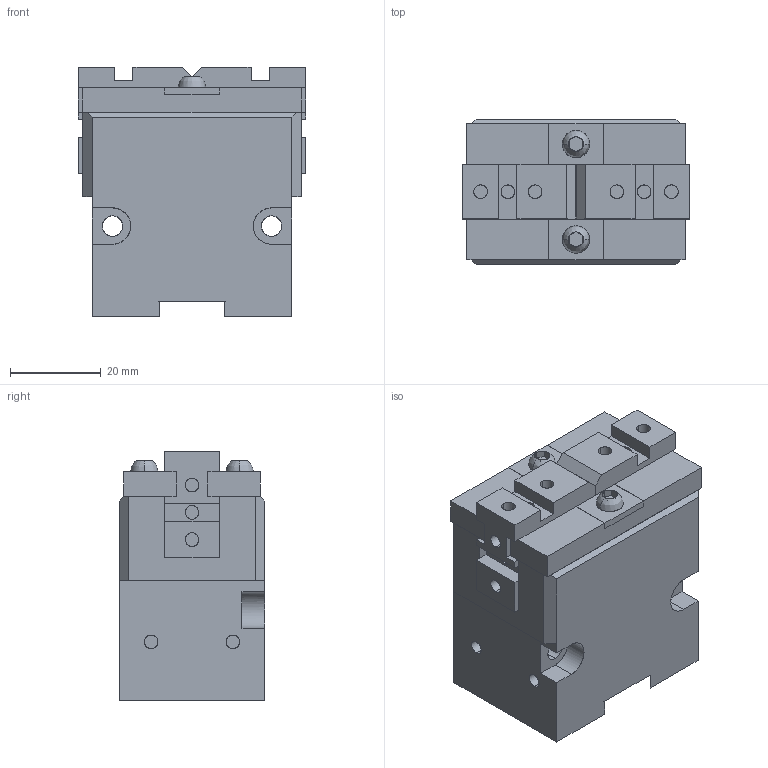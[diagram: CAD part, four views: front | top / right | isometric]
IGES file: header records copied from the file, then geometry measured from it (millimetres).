
Global section: file name: C:\Documents and Settings\Administrateur\Mes documents\OPE-50-X-CLOSED.igs; native system: AutoCAD-16.0s (LMS Tech) (Microsoft Windows NT Version 5.1 (x86)); preprocessor: Autodesk IGES Translator Mechanical Desktop.R7.0.43.0 (Mar 18 2003) from Autodesk, Inc.; date: 20050627.155819; units: millimetre
Bounding box: 50 x 32 x 55 mm (x, y, z)
Surface area: 23964.7 mm2 (no closed solid volume)
Topology: 0 solids, 0 shells, 241 faces, 2257 edges, 2338 vertices
Faces by surface type: bspline 241
